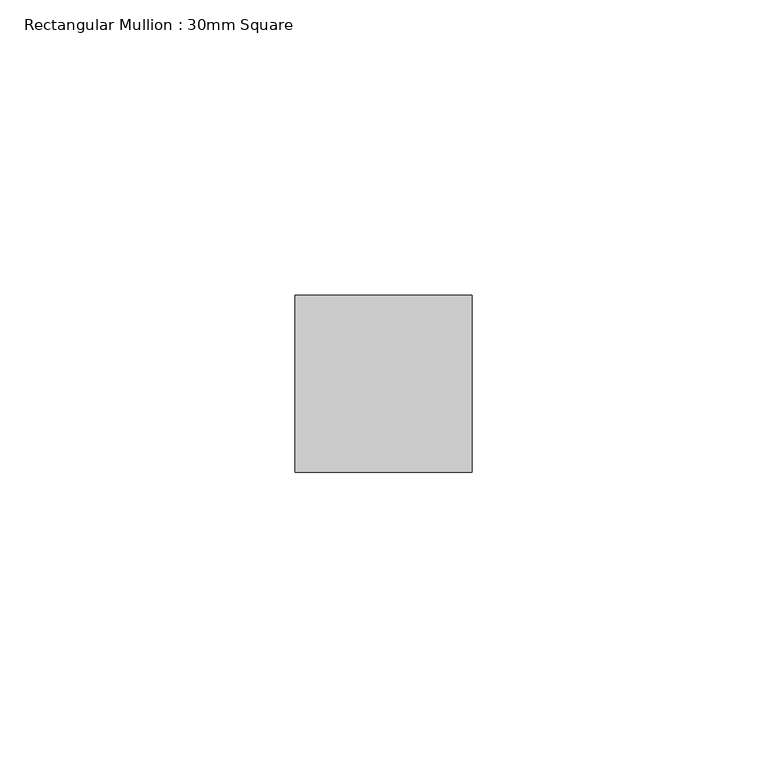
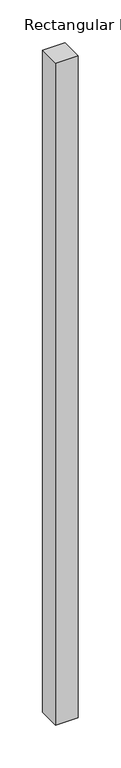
"""IFC4 building model written with IfcOpenShell, lengths in millimetres: member geometry, Rectangular Mullion : 30mm Square."""

from ifc_helpers import new_model, si_unit, frame, origin, place, context, project, spatial, polyline, outline, extrude, source, transform, mapped, element, save


def rectangular_mullion_30mm_square_9655e12f(model_context):
    return source(origin(), model_context, "Body", "SweptSolid", [
        extrude(outline(polyline([(0.0, 15.0), (0.0, -15.0), (-30.0, -15.0), (-30.0, 15.0), (0.0, 15.0)])), frame((0.0, 0.0, -940.0), z_axis=(0.0, 0.0, 1.0), x_axis=(1.0, 0.0, 0.0)), (0.0, 0.0, 1.0), 940.0),
    ])


if __name__ == "__main__":
    model = new_model("IFC4")
    model_context = context("Model", 3, world=origin())
    ifc_project = project(units=[si_unit("LENGTHUNIT", "METRE", prefix="MILLI")], contexts=[model_context])
    site = spatial("IfcSite", under=ifc_project)
    building = spatial("IfcBuilding", under=site)
    placement = place(None, origin())
    rectangular_mullion_30mm_square_shape = rectangular_mullion_30mm_square_9655e12f(model_context)
    element("IfcMember", 1, ObjectType="Rectangular Mullion : 30mm Square", at=placement, inside=building, context=model_context, shape_type="MappedRepresentation", body=[
        mapped(rectangular_mullion_30mm_square_shape, transform((0.0, 0.0, 0.0), x_axis=(1.0, 0.0, 0.0), y_axis=(0.0, 1.0, 0.0), z_axis=(0.0, 0.0, 1.0))),
    ])
    save(model, "model.ifc")
